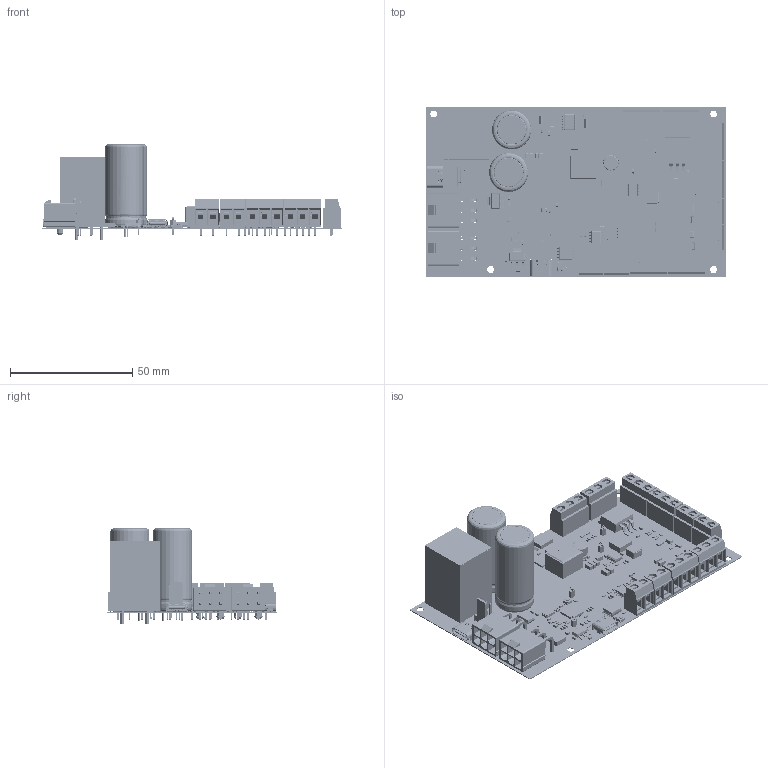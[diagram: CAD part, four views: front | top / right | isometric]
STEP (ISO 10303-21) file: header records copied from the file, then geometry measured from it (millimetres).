
FILE_DESCRIPTION(('Open CASCADE Model'),'2;1');
FILE_NAME('Open CASCADE Shape Model','2026-10-13T17:06:45',('Author'),( 'Open CASCADE'),'Open CASCADE STEP processor 7.5','Open CASCADE 7.5' ,'Unknown');
FILE_SCHEMA(('AUTOMOTIVE_DESIGN { 1 0 10303 214 1 1 1 1 }'));
Length unit declared in the file: millimetre
Products named in the file (436): PCB; Board; Open CASCADE STEP translator 7.5 1.1.1; L1; 78439369xxx; Analog; 609964192; MRT12P5_SX; MRT12P5_CNT; MRT12P5_DX; BR_PWR; 609964384; ST_PWR; MCont; R6; 609964000; R34; Res_Yageo_AC0603FR-07180RL_eec; terminal; body; top; logo; R3; Res_Yageo_AF0603FR-0710KL_eec; +5V; User Library-Test Point Keystone - 5003 ORANGE; User Library-Test Point Keystone - 5003 ORANGE_1; User Library-Test Point Keystone - 5003 ORANGE_2; U7; IC_Texas_Instruments_TPS54360BQDDARQ1_eec; terminals; U1; 642409792; Extruded; U2; IC_ON_Semiconductor_NCV1117ST33T3G_eec; 1; 2; ON Semi Logo; U8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
Assembly tree (574 placements, depth 5):
  PCB
    Board
      Open CASCADE STEP translator 7.5 1.1.1
    L1
      78439369xxx
    Analog
      609964192
        MRT12P5_SX
        MRT12P5_CNT
        MRT12P5_DX
    BR_PWR
      609964384
        MRT12P5_SX
        MRT12P5_CNT
        MRT12P5_DX
    ST_PWR
      609964384
        MRT12P5_SX
        MRT12P5_CNT
        MRT12P5_DX
    MCont
      609964192
        MRT12P5_SX
        MRT12P5_CNT
        MRT12P5_DX
    R6
      609964000
    R34
      Res_Yageo_AC0603FR-07180RL_eec
        terminal
        body
        top
        logo
    R3
      Res_Yageo_AF0603FR-0710KL_eec
      Res_Yageo_AF0603FR-0710KL_eec
      Res_Yageo_AF0603FR-0710KL_eec
      Res_Yageo_AF0603FR-0710KL_eec
      Res_Yageo_AF0603FR-0710KL_eec
    +5V
      User Library-Test Point Keystone - 5003 ORANGE
        User Library-Test Point Keystone - 5003 ORANGE_1
        User Library-Test Point Keystone - 5003 ORANGE_2
    U7
      IC_Texas_Instruments_TPS54360BQDDARQ1_eec
        body
        terminals
        logo
    U1
      642409792
        Extruded
    U2
      IC_ON_Semiconductor_NCV1117ST33T3G_eec
        1
        2
        ON Semi Logo
    U8
      609965536
        BODY-TO
        HTSINK-TO263
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Bounding box: 122.56 x 69.22 x 39 mm (x, y, z)
Volume: 40596.4 mm3; surface area: 56151.8 mm2
Topology: 1250 solids, 1250 shells, 25033 faces, 68299 edges, 48723 vertices
Faces by surface type: plane 14241, cylinder 4954, bspline 4529, sphere 848, torus 425, cone 36
Full cylindrical faces by diameter (mm): 0.043 x3, 0.146 x6, 0.174 x6, 0.392 x2, 0.487 x2, 0.633 x2, 0.66 x1, 0.767 x2, 0.8 x4, 0.95 x4, 1 x5, 1.19 x3, 1.2 x8, 1.3 x18, 1.4 x2, 1.5 x4, 1.6 x2, 1.7 x4, 1.8 x12, 3 x4, 3.124 x4, 5.73 x1, 6.3 x2, 12 x2
Entity records: 356622 total; most frequent: CARTESIAN_POINT 88843, ORIENTED_EDGE 52612, DIRECTION 45485, EDGE_CURVE 26306, LINE 17921, VECTOR 17921, VERTEX_POINT 16998, AXIS2_PLACEMENT_3D 13782
